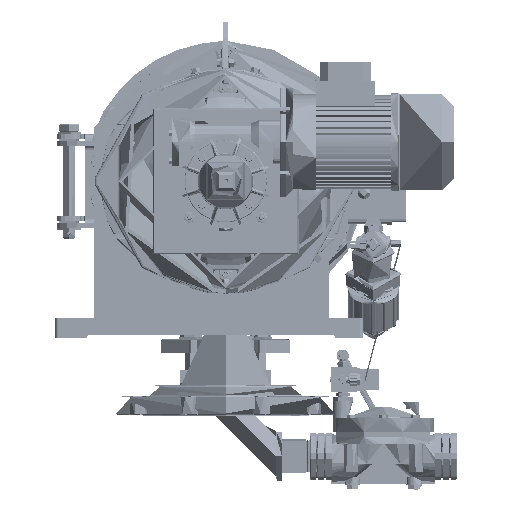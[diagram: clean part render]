
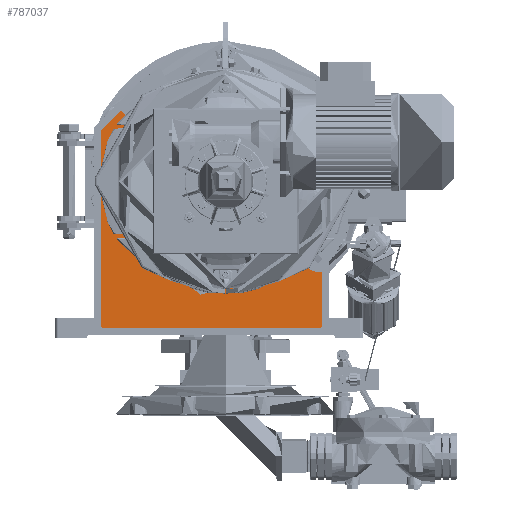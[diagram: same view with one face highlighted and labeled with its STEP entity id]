
A CAD part, left-side view. The second image highlights one B-rep face of the part: STEP entity #787037.
In plain terms, the highlighted planar face has unit normal (-1, 0, 0).
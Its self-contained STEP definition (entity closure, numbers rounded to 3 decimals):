
#609 = CARTESIAN_POINT ( 'NONE',  ( 249.528, -116.476, -114.636 ) ) ;
#7722 = CARTESIAN_POINT ( 'NONE',  ( 249.528, 156.97, 48.101 ) ) ;
#12257 = DIRECTION ( 'NONE',  ( -1., 0., 0. ) ) ;
#14254 = VERTEX_POINT ( 'NONE', #465959 ) ;
#32904 = AXIS2_PLACEMENT_3D ( 'NONE', #321572, #180676, #453488 ) ;
#43799 = DIRECTION ( 'NONE',  ( 0., -1., 0. ) ) ;
#53108 = DIRECTION ( 'NONE',  ( 0., 0., 1. ) ) ;
#71973 = CIRCLE ( 'NONE', #188286, 4. ) ;
#84950 = CARTESIAN_POINT ( 'NONE',  ( 249.528, -101.081, -126.55 ) ) ;
#96568 = CARTESIAN_POINT ( 'NONE',  ( 249.528, -119.409, -133.881 ) ) ;
#97437 = VERTEX_POINT ( 'NONE', #404876 ) ;
#98699 = DIRECTION ( 'NONE',  ( -1., 0., 0. ) ) ;
#108065 = CARTESIAN_POINT ( 'NONE',  ( 249.528, 156.97, 48.101 ) ) ;
#132200 = CIRCLE ( 'NONE', #640852, 2.667 ) ;
#141323 = EDGE_LOOP ( 'NONE', ( #468299, #522363, #463764, #747191, #183176, #545404, #843679, #768320, #311891, #759238, #290843, #866853, #814268, #495343 ) ) ;
#154193 = VERTEX_POINT ( 'NONE', #636859 ) ;
#171527 = AXIS2_PLACEMENT_3D ( 'NONE', #662865, #735488, #43799 ) ;
#176051 = VECTOR ( 'NONE', #837066, 1000. ) ;
#180676 = DIRECTION ( 'NONE',  ( -1., 0., 0. ) ) ;
#183176 = ORIENTED_EDGE ( 'NONE', *, *, #774836, .T. ) ;
#188286 = AXIS2_PLACEMENT_3D ( 'NONE', #350394, #819154, #195926 ) ;
#195926 = DIRECTION ( 'NONE',  ( 0., -1., 0. ) ) ;
#196788 = EDGE_CURVE ( 'NONE', #154193, #474358, #526037, .T. ) ;
#203045 = VERTEX_POINT ( 'NONE', #532068 ) ;
#203337 = EDGE_CURVE ( 'NONE', #847871, #567057, #317182, .T. ) ;
#244650 = DIRECTION ( 'NONE',  ( -1., 0., 0. ) ) ;
#263082 = DIRECTION ( 'NONE',  ( 0., -1., 0. ) ) ;
#272952 = AXIS2_PLACEMENT_3D ( 'NONE', #96568, #865337, #524008 ) ;
#274093 = VERTEX_POINT ( 'NONE', #306055 ) ;
#277470 = LINE ( 'NONE', #482144, #176051 ) ;
#285479 = DIRECTION ( 'NONE',  ( -1., 0., 0. ) ) ;
#290843 = ORIENTED_EDGE ( 'NONE', *, *, #542321, .T. ) ;
#306055 = CARTESIAN_POINT ( 'NONE',  ( 249.528, 132.999, 73.389 ) ) ;
#307523 = VECTOR ( 'NONE', #53108, 1000. ) ;
#311891 = ORIENTED_EDGE ( 'NONE', *, *, #872173, .T. ) ;
#317182 = LINE ( 'NONE', #462573, #307523 ) ;
#321572 = CARTESIAN_POINT ( 'NONE',  ( 249.528, 128.525, 66.112 ) ) ;
#327313 = CARTESIAN_POINT ( 'NONE',  ( 249.528, 127.284, 68.472 ) ) ;
#331214 = LINE ( 'NONE', #886341, #629380 ) ;
#343646 = AXIS2_PLACEMENT_3D ( 'NONE', #776800, #98699, #704173 ) ;
#350394 = CARTESIAN_POINT ( 'NONE',  ( 249.528, 156.97, -199.247 ) ) ;
#351821 = DIRECTION ( 'NONE',  ( -1., 0., 0. ) ) ;
#353423 = EDGE_CURVE ( 'NONE', #203045, #154193, #277470, .T. ) ;
#363211 = EDGE_CURVE ( 'NONE', #553235, #765466, #506378, .T. ) ;
#364113 = CARTESIAN_POINT ( 'NONE',  ( 249.528, -119.008, -131.244 ) ) ;
#370459 = CIRCLE ( 'NONE', #399651, 148.4 ) ;
#399651 = AXIS2_PLACEMENT_3D ( 'NONE', #635910, #12257, #576484 ) ;
#404876 = CARTESIAN_POINT ( 'NONE',  ( 249.528, 126.282, 64.669 ) ) ;
#407441 = DIRECTION ( 'NONE',  ( 0., 0., -1. ) ) ;
#419214 = DIRECTION ( 'NONE',  ( 0., -1., 0. ) ) ;
#426184 = DIRECTION ( 'NONE',  ( -1., 0., 0. ) ) ;
#447462 = CIRCLE ( 'NONE', #272952, 2.667 ) ;
#453488 = DIRECTION ( 'NONE',  ( 0., -1., 0. ) ) ;
#462573 = CARTESIAN_POINT ( 'NONE',  ( 249.528, -122.076, -199.247 ) ) ;
#463764 = ORIENTED_EDGE ( 'NONE', *, *, #658600, .T. ) ;
#465959 = CARTESIAN_POINT ( 'NONE',  ( 249.528, 156.97, -203.247 ) ) ;
#468299 = ORIENTED_EDGE ( 'NONE', *, *, #196788, .T. ) ;
#471286 = CARTESIAN_POINT ( 'NONE',  ( 249.528, 160.97, -199.247 ) ) ;
#474358 = VERTEX_POINT ( 'NONE', #624423 ) ;
#482144 = CARTESIAN_POINT ( 'NONE',  ( 249.528, 137.033, 73.694 ) ) ;
#495343 = ORIENTED_EDGE ( 'NONE', *, *, #353423, .T. ) ;
#495686 = EDGE_CURVE ( 'NONE', #14254, #876271, #331214, .T. ) ;
#505999 = CIRCLE ( 'NONE', #171527, 2.667 ) ;
#506378 = CIRCLE ( 'NONE', #521302, 16.8 ) ;
#511711 = AXIS2_PLACEMENT_3D ( 'NONE', #108065, #244650, #633056 ) ;
#521302 = AXIS2_PLACEMENT_3D ( 'NONE', #609, #624209, #419214 ) ;
#522363 = ORIENTED_EDGE ( 'NONE', *, *, #564543, .T. ) ;
#524008 = DIRECTION ( 'NONE',  ( 0., -1., 0. ) ) ;
#526037 = CIRCLE ( 'NONE', #511711, 4. ) ;
#532068 = CARTESIAN_POINT ( 'NONE',  ( 249.528, 137.033, 73.694 ) ) ;
#533281 = EDGE_CURVE ( 'NONE', #97437, #676179, #370459, .T. ) ;
#542321 = EDGE_CURVE ( 'NONE', #97437, #819985, #628875, .T. ) ;
#545404 = ORIENTED_EDGE ( 'NONE', *, *, #203337, .T. ) ;
#553235 = VERTEX_POINT ( 'NONE', #723577 ) ;
#558419 = FACE_OUTER_BOUND ( 'NONE', #141323, .T. ) ;
#564543 = EDGE_CURVE ( 'NONE', #474358, #884795, #603476, .T. ) ;
#567057 = VERTEX_POINT ( 'NONE', #650507 ) ;
#567418 = EDGE_CURVE ( 'NONE', #567057, #765466, #447462, .T. ) ;
#572237 = CARTESIAN_POINT ( 'NONE',  ( 249.528, -99.27, -124.592 ) ) ;
#576484 = DIRECTION ( 'NONE',  ( 0., -1., 0. ) ) ;
#578230 = AXIS2_PLACEMENT_3D ( 'NONE', #7722, #285479, #840491 ) ;
#590580 = CIRCLE ( 'NONE', #343646, 4. ) ;
#598997 = CARTESIAN_POINT ( 'NONE',  ( 249.528, 160.97, 48.101 ) ) ;
#603476 = LINE ( 'NONE', #598997, #847093 ) ;
#610975 = AXIS2_PLACEMENT_3D ( 'NONE', #770432, #351821, #629564 ) ;
#624209 = DIRECTION ( 'NONE',  ( -1., 0., 0. ) ) ;
#624423 = CARTESIAN_POINT ( 'NONE',  ( 249.528, 160.97, 48.101 ) ) ;
#628875 = CIRCLE ( 'NONE', #32904, 2.667 ) ;
#629380 = VECTOR ( 'NONE', #263082, 1000. ) ;
#629564 = DIRECTION ( 'NONE',  ( 0., -1., 0. ) ) ;
#633056 = DIRECTION ( 'NONE',  ( 0., -1., 0. ) ) ;
#635910 = CARTESIAN_POINT ( 'NONE',  ( 249.528, 1.495, -15.647 ) ) ;
#636859 = CARTESIAN_POINT ( 'NONE',  ( 249.528, 159.798, 50.929 ) ) ;
#640852 = AXIS2_PLACEMENT_3D ( 'NONE', #84950, #426184, #712775 ) ;
#650507 = CARTESIAN_POINT ( 'NONE',  ( 249.528, -122.076, -133.881 ) ) ;
#658600 = EDGE_CURVE ( 'NONE', #884795, #14254, #71973, .T. ) ;
#662865 = CARTESIAN_POINT ( 'NONE',  ( 249.528, 135.148, 71.809 ) ) ;
#665053 = EDGE_CURVE ( 'NONE', #274093, #819985, #771391, .T. ) ;
#676179 = VERTEX_POINT ( 'NONE', #572237 ) ;
#704173 = DIRECTION ( 'NONE',  ( 0., -1., 0. ) ) ;
#712775 = DIRECTION ( 'NONE',  ( 0., -1., 0. ) ) ;
#723577 = CARTESIAN_POINT ( 'NONE',  ( 249.528, -103.19, -124.918 ) ) ;
#735488 = DIRECTION ( 'NONE',  ( -1., 0., 0. ) ) ;
#742474 = EDGE_CURVE ( 'NONE', #274093, #203045, #505999, .T. ) ;
#747191 = ORIENTED_EDGE ( 'NONE', *, *, #495686, .T. ) ;
#759238 = ORIENTED_EDGE ( 'NONE', *, *, #533281, .F. ) ;
#765466 = VERTEX_POINT ( 'NONE', #364113 ) ;
#767701 = PLANE ( 'NONE',  #578230 ) ;
#768320 = ORIENTED_EDGE ( 'NONE', *, *, #363211, .F. ) ;
#768862 = CARTESIAN_POINT ( 'NONE',  ( 249.528, -118.076, -203.247 ) ) ;
#770432 = CARTESIAN_POINT ( 'NONE',  ( 249.528, 119.466, 83.342 ) ) ;
#771339 = CARTESIAN_POINT ( 'NONE',  ( 249.528, -122.076, -199.247 ) ) ;
#771391 = CIRCLE ( 'NONE', #610975, 16.8 ) ;
#774836 = EDGE_CURVE ( 'NONE', #876271, #847871, #590580, .T. ) ;
#776800 = CARTESIAN_POINT ( 'NONE',  ( 249.528, -118.076, -199.247 ) ) ;
#787037 = ADVANCED_FACE ( 'NONE', ( #558419 ), #767701, .T. ) ;
#814268 = ORIENTED_EDGE ( 'NONE', *, *, #742474, .T. ) ;
#819154 = DIRECTION ( 'NONE',  ( -1., 0., 0. ) ) ;
#819985 = VERTEX_POINT ( 'NONE', #327313 ) ;
#837066 = DIRECTION ( 'NONE',  ( 0., 0.707, -0.707 ) ) ;
#840491 = DIRECTION ( 'NONE',  ( 0., -1., 0. ) ) ;
#843679 = ORIENTED_EDGE ( 'NONE', *, *, #567418, .T. ) ;
#847093 = VECTOR ( 'NONE', #407441, 1000. ) ;
#847871 = VERTEX_POINT ( 'NONE', #771339 ) ;
#865337 = DIRECTION ( 'NONE',  ( -1., 0., 0. ) ) ;
#866853 = ORIENTED_EDGE ( 'NONE', *, *, #665053, .F. ) ;
#872173 = EDGE_CURVE ( 'NONE', #553235, #676179, #132200, .T. ) ;
#876271 = VERTEX_POINT ( 'NONE', #768862 ) ;
#884795 = VERTEX_POINT ( 'NONE', #471286 ) ;
#886341 = CARTESIAN_POINT ( 'NONE',  ( 249.528, 156.97, -203.247 ) ) ;
